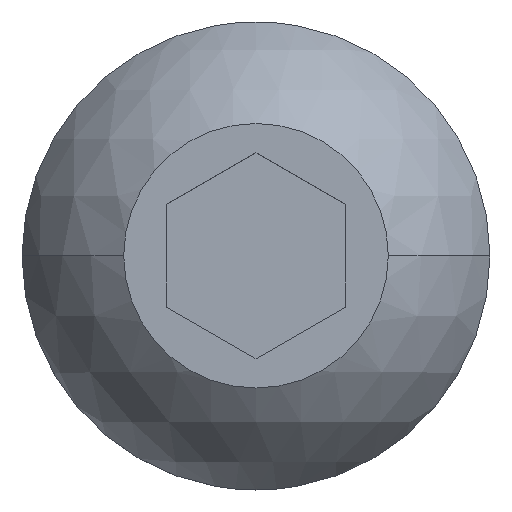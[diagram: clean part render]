
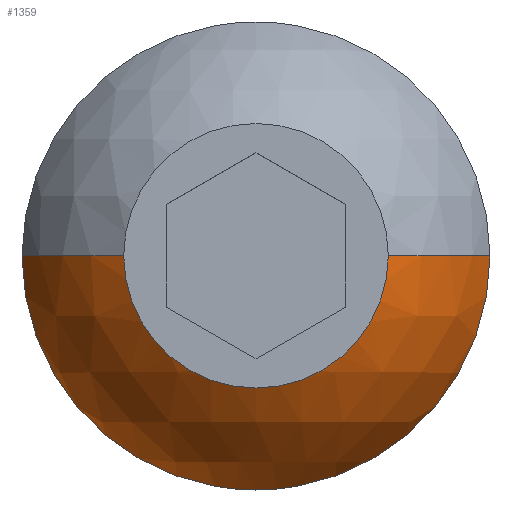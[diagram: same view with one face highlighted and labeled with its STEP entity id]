
A CAD part, top view. The second image highlights one B-rep face of the part: STEP entity #1359.
In plain terms, the highlighted spherical face has radius 5.6 mm.
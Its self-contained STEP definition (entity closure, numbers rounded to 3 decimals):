
#163 = CARTESIAN_POINT ( 'NONE',  ( -5.25, 0., 0.5 ) ) ;
#284 = VERTEX_POINT ( 'NONE', #404 ) ;
#392 = VERTEX_POINT ( 'NONE', #2637 ) ;
#404 = CARTESIAN_POINT ( 'NONE',  ( 2.968, 0., 3.3 ) ) ;
#598 = DIRECTION ( 'NONE',  ( -1., 0., 0. ) ) ;
#626 = AXIS2_PLACEMENT_3D ( 'NONE', #2958, #875, #3299 ) ;
#659 = CIRCLE ( 'NONE', #1321, 2.968 ) ;
#700 = ORIENTED_EDGE ( 'NONE', *, *, #2070, .T. ) ;
#704 = CARTESIAN_POINT ( 'NONE',  ( 0., 0., 0.5 ) ) ;
#875 = DIRECTION ( 'NONE',  ( 0., -1., 0. ) ) ;
#1042 = EDGE_LOOP ( 'NONE', ( #4324, #1185, #3856, #700 ) ) ;
#1053 = DIRECTION ( 'NONE',  ( -1., 0., 0. ) ) ;
#1128 = CARTESIAN_POINT ( 'NONE',  ( 5.25, 0., 0.5 ) ) ;
#1130 = VERTEX_POINT ( 'NONE', #163 ) ;
#1173 = EDGE_CURVE ( 'NONE', #392, #1130, #1364, .T. ) ;
#1182 = EDGE_CURVE ( 'NONE', #392, #284, #659, .T. ) ;
#1185 = ORIENTED_EDGE ( 'NONE', *, *, #1182, .F. ) ;
#1321 = AXIS2_PLACEMENT_3D ( 'NONE', #1566, #3985, #1939 ) ;
#1359 = ADVANCED_FACE ( 'NONE', ( #3102 ), #2081, .T. ) ;
#1364 = CIRCLE ( 'NONE', #626, 5.6 ) ;
#1566 = CARTESIAN_POINT ( 'NONE',  ( 0., 0., 3.3 ) ) ;
#1617 = CARTESIAN_POINT ( 'NONE',  ( 0., 0., -1.449 ) ) ;
#1939 = DIRECTION ( 'NONE',  ( 1., 0., 0. ) ) ;
#1995 = DIRECTION ( 'NONE',  ( -1., 0., 0. ) ) ;
#2005 = AXIS2_PLACEMENT_3D ( 'NONE', #1617, #4031, #1995 ) ;
#2070 = EDGE_CURVE ( 'NONE', #1130, #4438, #4112, .T. ) ;
#2081 = SPHERICAL_SURFACE ( 'NONE', #3641, 5.6 ) ;
#2346 = DIRECTION ( 'NONE',  ( 0., 1., 0. ) ) ;
#2478 = CIRCLE ( 'NONE', #2005, 5.6 ) ;
#2637 = CARTESIAN_POINT ( 'NONE',  ( -2.968, 0., 3.3 ) ) ;
#2891 = EDGE_CURVE ( 'NONE', #284, #4438, #2478, .T. ) ;
#2958 = CARTESIAN_POINT ( 'NONE',  ( 0., 0., -1.449 ) ) ;
#3102 = FACE_OUTER_BOUND ( 'NONE', #1042, .T. ) ;
#3132 = DIRECTION ( 'NONE',  ( 0., 0., 1. ) ) ;
#3299 = DIRECTION ( 'NONE',  ( 0., 0., -1. ) ) ;
#3641 = AXIS2_PLACEMENT_3D ( 'NONE', #4404, #2346, #598 ) ;
#3685 = AXIS2_PLACEMENT_3D ( 'NONE', #704, #3132, #1053 ) ;
#3856 = ORIENTED_EDGE ( 'NONE', *, *, #1173, .T. ) ;
#3985 = DIRECTION ( 'NONE',  ( 0., 0., 1. ) ) ;
#4031 = DIRECTION ( 'NONE',  ( 0., 1., 0. ) ) ;
#4112 = CIRCLE ( 'NONE', #3685, 5.25 ) ;
#4324 = ORIENTED_EDGE ( 'NONE', *, *, #2891, .F. ) ;
#4404 = CARTESIAN_POINT ( 'NONE',  ( 0., 0., -1.449 ) ) ;
#4438 = VERTEX_POINT ( 'NONE', #1128 ) ;
